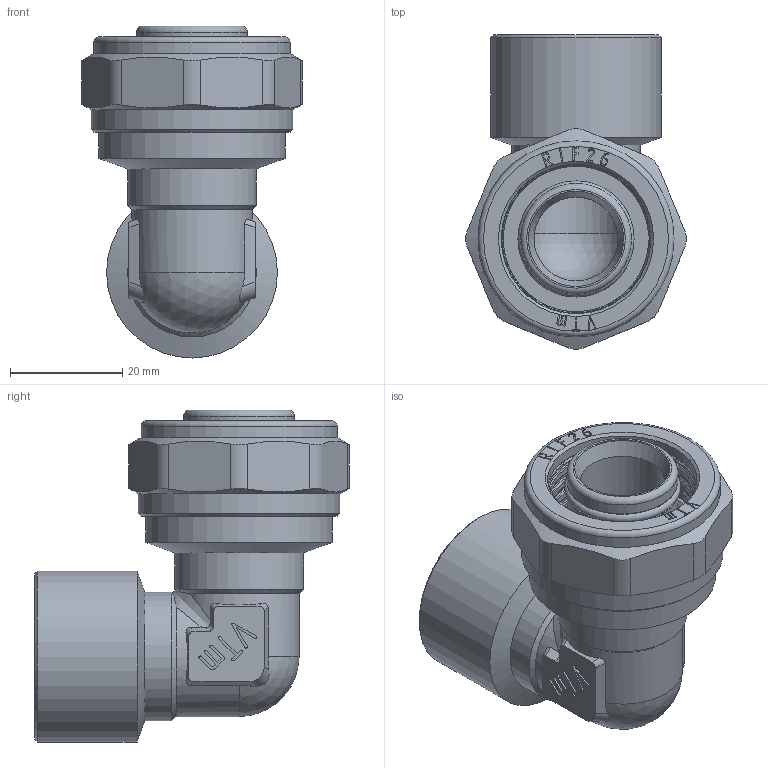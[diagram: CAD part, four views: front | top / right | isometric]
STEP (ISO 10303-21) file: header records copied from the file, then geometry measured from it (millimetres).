
FILE_DESCRIPTION(('STEP AP203'), '1');
FILE_NAME('VTm.352.N.002605', '', ('UNSPECIFIED'), ('UNSPECIFIED'), 'C3D Converter', 'C3D Toolkit', '');
FILE_SCHEMA(('CONFIG_CONTROL_DESIGN'));
Length unit declared in the file: millimetre
Products named in the file (1): ВР.302635.103.000 СБ
Bounding box: 39.39 x 56.19 x 59.25 mm (x, y, z)
Volume: 26196.7 mm3; surface area: 19044.5 mm2
Topology: 1 solids, 1 shells, 462 faces, 1269 edges, 835 vertices
Faces by surface type: extrusion 201, plane 156, cylinder 54, torus 29, cone 19, sphere 2, bspline 1
Full cylindrical faces by diameter (mm): 15 x1, 17 x1, 17.4 x4, 19.8 x5, 20 x1, 23 x2, 24.118 x1, 26.2 x1, 26.7 x1, 30.292 x1, 30.5 x1, 33.249 x1, 35 x1, 36 x1
Entity records: 17139 total; most frequent: CARTESIAN_POINT 6578, ORIENTED_EDGE 2432, DIRECTION 1507, EDGE_CURVE 1216, VERTEX_POINT 835, VECTOR 767, B_SPLINE_CURVE_WITH_KNOTS 706, LINE 566
